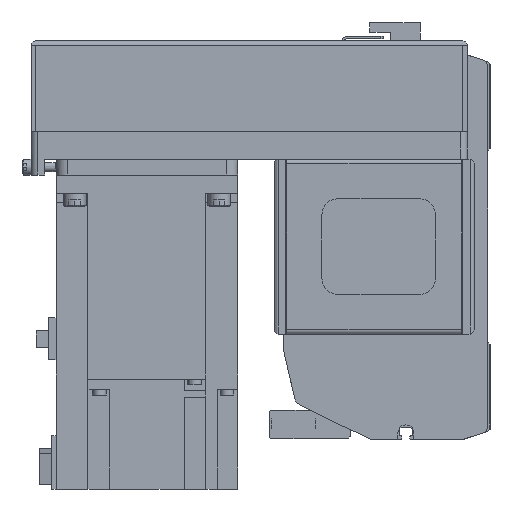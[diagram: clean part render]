
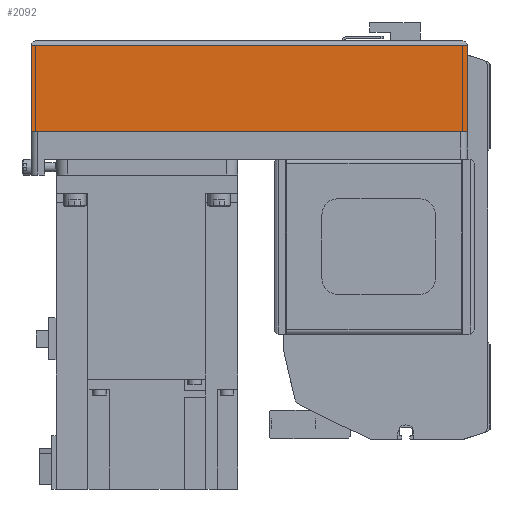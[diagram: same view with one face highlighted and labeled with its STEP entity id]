
A CAD part, left-side view. The second image highlights one B-rep face of the part: STEP entity #2092.
In plain terms, the highlighted planar face has unit normal (-1, 0, 0) as drawn and (0, 1, 0) by its records, which use the part's own axes.
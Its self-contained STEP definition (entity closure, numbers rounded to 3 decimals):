
#2092 = ADVANCED_FACE( '', ( #4787 ), #4788, .T. );
#4787 = FACE_OUTER_BOUND( '', #8157, .T. );
#4788 = PLANE( '', #8158 );
#8157 = EDGE_LOOP( '', ( #14195, #14196, #14197, #14198 ) );
#8158 = AXIS2_PLACEMENT_3D( '', #14199, #14200, #14201 );
#14195 = ORIENTED_EDGE( '', *, *, #20841, .F. );
#14196 = ORIENTED_EDGE( '', *, *, #20910, .F. );
#14197 = ORIENTED_EDGE( '', *, *, #21393, .T. );
#14198 = ORIENTED_EDGE( '', *, *, #21327, .T. );
#14199 = CARTESIAN_POINT( '', ( -192., 40., -50. ) );
#14200 = DIRECTION( '', ( 0., 1., 0. ) );
#14201 = DIRECTION( '', ( 0., 0., 1. ) );
#20841 = EDGE_CURVE( '', #24914, #25565, #25566, .T. );
#20910 = EDGE_CURVE( '', #25325, #24914, #25669, .T. );
#21327 = EDGE_CURVE( '', #26278, #25565, #26279, .T. );
#21393 = EDGE_CURVE( '', #25325, #26278, #26366, .T. );
#24914 = VERTEX_POINT( '', #31117 );
#25325 = VERTEX_POINT( '', #31924 );
#25565 = VERTEX_POINT( '', #32246 );
#25566 = LINE( '', #32247, #32248 );
#25669 = LINE( '', #32412, #32413 );
#26278 = VERTEX_POINT( '', #33382 );
#26279 = LINE( '', #33383, #33384 );
#26366 = LINE( '', #33520, #33521 );
#31117 = CARTESIAN_POINT( '', ( 0., 40., -50. ) );
#31924 = CARTESIAN_POINT( '', ( -192., 40., -50. ) );
#32246 = CARTESIAN_POINT( '', ( 0., 40., -12.1 ) );
#32247 = CARTESIAN_POINT( '', ( 0., 40., -50. ) );
#32248 = VECTOR( '', #38087, 1000. );
#32412 = CARTESIAN_POINT( '', ( -192., 40., -50. ) );
#32413 = VECTOR( '', #38167, 1000. );
#33382 = CARTESIAN_POINT( '', ( -192., 40., -12.1 ) );
#33383 = CARTESIAN_POINT( '', ( -192., 40., -12.1 ) );
#33384 = VECTOR( '', #38651, 1000. );
#33520 = CARTESIAN_POINT( '', ( -192., 40., -50. ) );
#33521 = VECTOR( '', #38709, 1000. );
#38087 = DIRECTION( '', ( 0., 0., 1. ) );
#38167 = DIRECTION( '', ( 1., 0., 0. ) );
#38651 = DIRECTION( '', ( 1., 0., 0. ) );
#38709 = DIRECTION( '', ( 0., 0., 1. ) );
